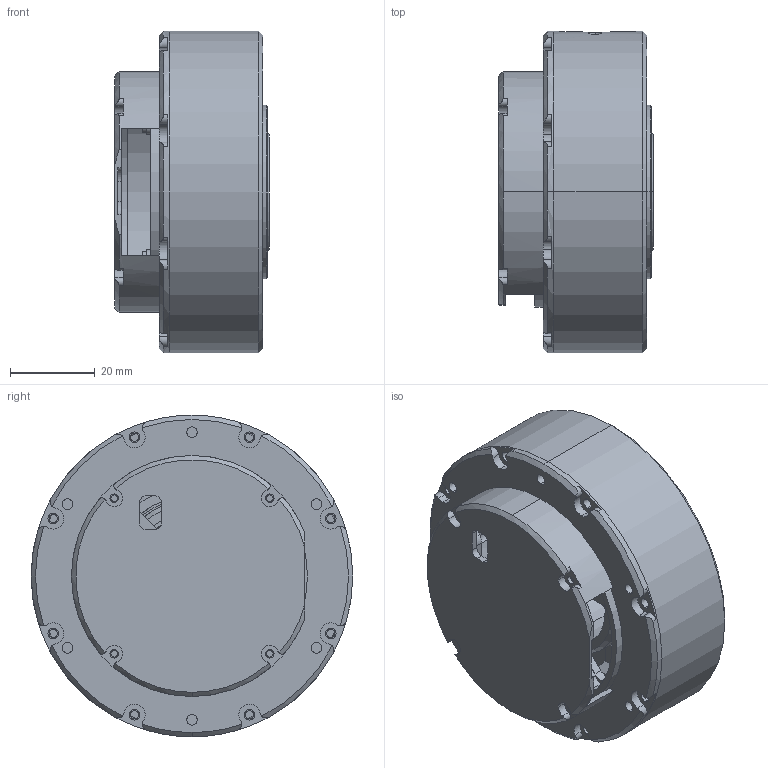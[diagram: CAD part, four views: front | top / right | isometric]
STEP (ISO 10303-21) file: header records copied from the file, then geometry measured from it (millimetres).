
FILE_DESCRIPTION (( 'STEP AP203' ), '1' );
FILE_NAME ('GIM6010-6 _25032701.STEP', '2025-03-27T07:50:31', ( '' ), ( '' ), 'SwSTEP 2.0', 'SolidWorks 2016', '' );
FILE_SCHEMA (( 'CONFIG_CONTROL_DESIGN' ));
Length unit declared in the file: millimetre
Products named in the file (1): GIM6010-6 _25032701
Bounding box: 36.5 x 76 x 76 mm (x, y, z)
Volume: 31192.9 mm3; surface area: 43844.4 mm2
Topology: 4 solids, 5 shells, 952 faces, 2614 edges, 1721 vertices
Faces by surface type: cylinder 664, plane 201, cone 83, torus 4
Entity records: 33649 total; most frequent: CARTESIAN_POINT 8659, DIRECTION 5456, ORIENTED_EDGE 5228, EDGE_CURVE 2614, AXIS2_PLACEMENT_3D 2254, VERTEX_POINT 1721, CIRCLE 1301, EDGE_LOOP 1081
